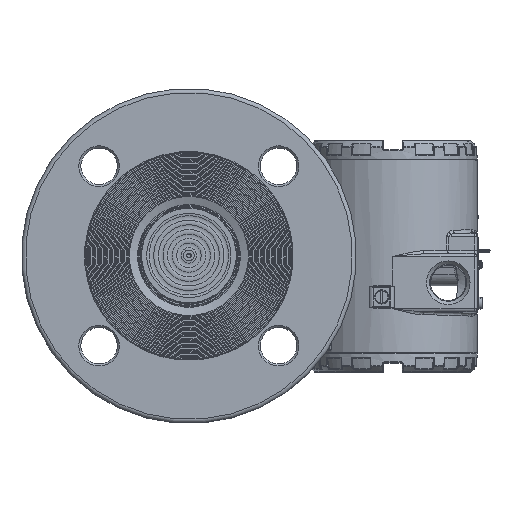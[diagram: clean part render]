
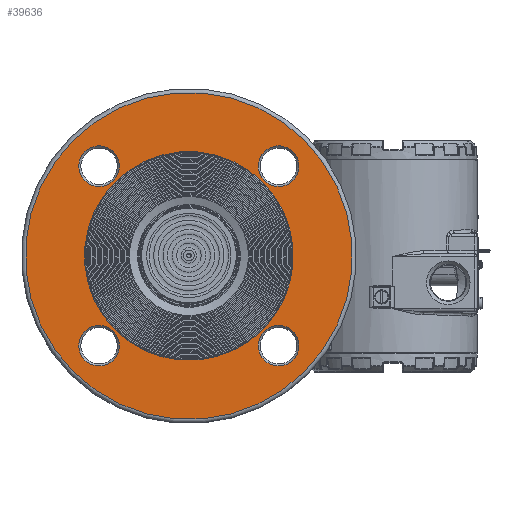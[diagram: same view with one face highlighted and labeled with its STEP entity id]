
A CAD part, top view. The second image highlights one B-rep face of the part: STEP entity #39636.
In plain terms, the highlighted planar face has unit normal (0, 0, 1).
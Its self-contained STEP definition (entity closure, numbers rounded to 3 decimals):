
#770=FACE_BOUND('',#6762,.T.);
#771=FACE_BOUND('',#6763,.T.);
#772=FACE_BOUND('',#6764,.T.);
#773=FACE_BOUND('',#6765,.T.);
#774=FACE_BOUND('',#6766,.T.);
#2817=PLANE('',#44051);
#4050=FACE_OUTER_BOUND('',#6761,.T.);
#6761=EDGE_LOOP('',(#30248));
#6762=EDGE_LOOP('',(#30249,#30250));
#6763=EDGE_LOOP('',(#30251));
#6764=EDGE_LOOP('',(#30252));
#6765=EDGE_LOOP('',(#30253));
#6766=EDGE_LOOP('',(#30254));
#12699=CIRCLE('',#44048,80.5);
#12701=CIRCLE('',#44052,51.4);
#12702=CIRCLE('',#44053,51.4);
#12703=CIRCLE('',#44054,10.);
#12704=CIRCLE('',#44055,10.);
#12705=CIRCLE('',#44056,10.);
#12706=CIRCLE('',#44057,10.);
#17324=VERTEX_POINT('',#70648);
#17326=VERTEX_POINT('',#70656);
#17327=VERTEX_POINT('',#70657);
#17328=VERTEX_POINT('',#70660);
#17329=VERTEX_POINT('',#70662);
#17330=VERTEX_POINT('',#70664);
#17331=VERTEX_POINT('',#70666);
#21889=EDGE_CURVE('',#17324,#17324,#12699,.T.);
#21892=EDGE_CURVE('',#17326,#17327,#12701,.T.);
#21893=EDGE_CURVE('',#17327,#17326,#12702,.T.);
#21894=EDGE_CURVE('',#17328,#17328,#12703,.T.);
#21895=EDGE_CURVE('',#17329,#17329,#12704,.T.);
#21896=EDGE_CURVE('',#17330,#17330,#12705,.T.);
#21897=EDGE_CURVE('',#17331,#17331,#12706,.T.);
#30248=ORIENTED_EDGE('',*,*,#21889,.F.);
#30249=ORIENTED_EDGE('',*,*,#21892,.F.);
#30250=ORIENTED_EDGE('',*,*,#21893,.F.);
#30251=ORIENTED_EDGE('',*,*,#21894,.F.);
#30252=ORIENTED_EDGE('',*,*,#21895,.F.);
#30253=ORIENTED_EDGE('',*,*,#21896,.F.);
#30254=ORIENTED_EDGE('',*,*,#21897,.F.);
#39636=ADVANCED_FACE('',(#4050,#770,#771,#772,#773,#774),#2817,.T.);
#44048=AXIS2_PLACEMENT_3D('',#70650,#52175,#52176);
#44051=AXIS2_PLACEMENT_3D('',#70655,#52182,#52183);
#44052=AXIS2_PLACEMENT_3D('',#70658,#52184,#52185);
#44053=AXIS2_PLACEMENT_3D('',#70659,#52186,#52187);
#44054=AXIS2_PLACEMENT_3D('',#70661,#52188,#52189);
#44055=AXIS2_PLACEMENT_3D('',#70663,#52190,#52191);
#44056=AXIS2_PLACEMENT_3D('',#70665,#52192,#52193);
#44057=AXIS2_PLACEMENT_3D('',#70667,#52194,#52195);
#52175=DIRECTION('center_axis',(0.,0.,-1.));
#52176=DIRECTION('ref_axis',(-1.,0.,0.));
#52182=DIRECTION('center_axis',(0.,0.,1.));
#52183=DIRECTION('ref_axis',(1.,0.,0.));
#52184=DIRECTION('center_axis',(0.,0.,1.));
#52185=DIRECTION('ref_axis',(-1.,0.,0.));
#52186=DIRECTION('center_axis',(0.,0.,1.));
#52187=DIRECTION('ref_axis',(-1.,0.,0.));
#52188=DIRECTION('center_axis',(0.,0.,1.));
#52189=DIRECTION('ref_axis',(-1.,0.,0.));
#52190=DIRECTION('center_axis',(0.,0.,1.));
#52191=DIRECTION('ref_axis',(0.,1.,0.));
#52192=DIRECTION('center_axis',(0.,0.,1.));
#52193=DIRECTION('ref_axis',(1.,0.,0.));
#52194=DIRECTION('center_axis',(0.,0.,1.));
#52195=DIRECTION('ref_axis',(0.,-1.,0.));
#70648=CARTESIAN_POINT('',(80.5,0.,17.));
#70650=CARTESIAN_POINT('Origin',(0.,0.,17.));
#70655=CARTESIAN_POINT('Origin',(0.,0.,
17.));
#70656=CARTESIAN_POINT('',(51.4,0.,17.));
#70657=CARTESIAN_POINT('',(-51.4,0.,17.));
#70658=CARTESIAN_POINT('Origin',(0.,0.,17.));
#70659=CARTESIAN_POINT('Origin',(0.,0.,17.));
#70660=CARTESIAN_POINT('',(10.,62.5,17.));
#70661=CARTESIAN_POINT('Origin',(0.,62.5,17.));
#70662=CARTESIAN_POINT('',(62.5,-10.,17.));
#70663=CARTESIAN_POINT('Origin',(62.5,0.,17.));
#70664=CARTESIAN_POINT('',(-10.,-62.5,17.));
#70665=CARTESIAN_POINT('Origin',(0.,-62.5,17.));
#70666=CARTESIAN_POINT('',(-62.5,10.,17.));
#70667=CARTESIAN_POINT('Origin',(-62.5,0.,17.));
